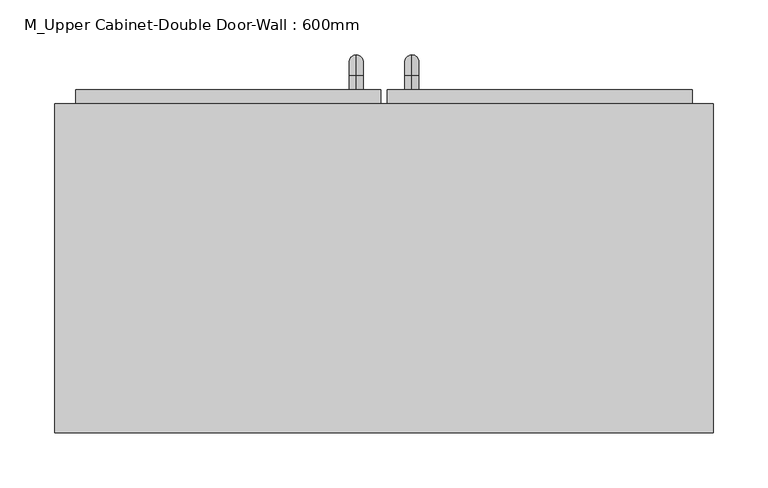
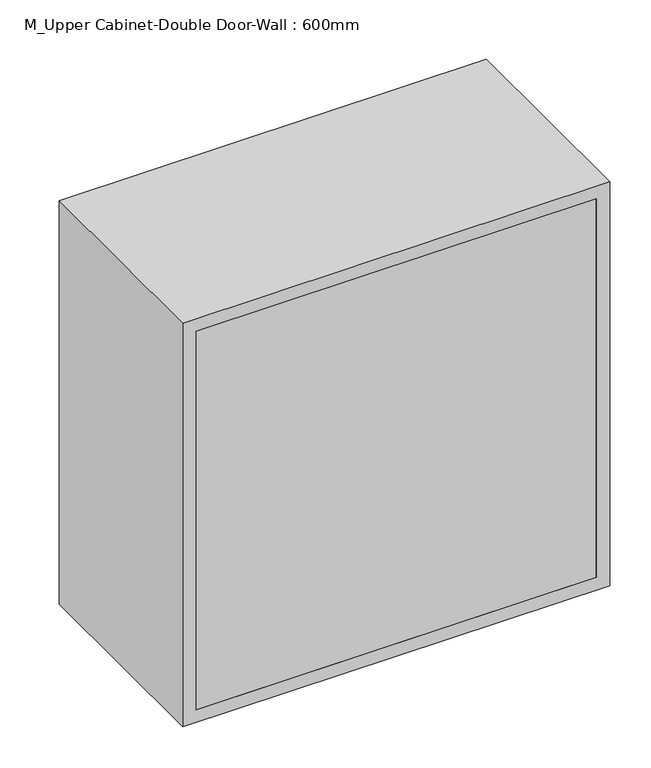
"""IFC4 building model written with IfcOpenShell, lengths in millimetres: furniture geometry, M_Upper Cabinet-Double Door-Wall : 600mm."""

from ifc_helpers import new_model, si_unit, point, frame, origin, place, context, project, spatial, polyline, circle_curve, ellipse_curve, trimmed, outline, extrude, source, transform, mapped, element, save
from ifc_brep_helpers import plane_surface, cylinder_surface, revolved_surface, advanced_brep


def m_upper_cabinet_double_door_wall_600mm_93809998(model_context):
    return source(origin(), model_context, "Body", "SolidModel", [
        advanced_brep(
        [(55.1711628, 412.7, 1546.05), (55.1711628, 412.7, 1558.75), (55.1711628, 425.4, 1546.05), (55.1711628, 425.4, 1558.75), (55.1711628, 444.45, 1539.7), (55.1711628, 431.75, 1539.7), (55.1711628, 431.75, 1463.5), (55.1711628, 444.45, 1463.5), (55.1711628, 425.4, 1444.45), (55.1711628, 425.4, 1457.15), (55.1711628, 412.7, 1457.15), (55.1711628, 412.7, 1444.45)],
        [
            (0, 1, circle_curve(frame((55.1711628, 412.7, 1552.4), z_axis=(0.0, -1.0, 0.0), x_axis=(0.0, 0.0, -1.0)), 6.35)),
            (1, 0, circle_curve(frame((55.1711628, 412.7, 1552.4), z_axis=(0.0, -1.0, 0.0), x_axis=(0.0, 0.0, -1.0)), 6.35)),
            (0, 2),
            (2, 3, circle_curve(frame((55.1711628, 425.4, 1552.4), z_axis=(0.0, -1.0, 0.0), x_axis=(0.0, 0.0, -1.0)), 6.35)),
            (3, 1),
            (3, 2, circle_curve(frame((55.1711628, 425.4, 1552.4), z_axis=(0.0, -1.0, 0.0), x_axis=(0.0, 0.0, -1.0)), 6.35)),
            (4, 3, circle_curve(frame((55.1711628, 425.4, 1539.7), z_axis=(1.0, 0.0, 0.0), x_axis=(0.0, 0.0, 1.0)), 19.05)),
            (2, 5, circle_curve(frame((55.1711628, 425.4, 1539.7), z_axis=(-1.0, 0.0, 0.0), x_axis=(0.0, 0.0, 1.0)), 6.35)),
            (5, 4, circle_curve(frame((55.1711628, 438.1, 1539.7), z_axis=(0.0, 0.0, 1.0), x_axis=(0.0, -1.0, 0.0)), 6.35)),
            (4, 5, circle_curve(frame((55.1711628, 438.1, 1539.7), z_axis=(0.0, 0.0, 1.0), x_axis=(0.0, -1.0, 0.0)), 6.35)),
            (5, 6),
            (6, 7, circle_curve(frame((55.1711628, 438.1, 1463.5), z_axis=(0.0, 0.0, 1.0), x_axis=(0.0, -1.0, 0.0)), 6.35)),
            (7, 4),
            (7, 6, circle_curve(frame((55.1711628, 438.1, 1463.5), z_axis=(0.0, 0.0, 1.0), x_axis=(0.0, -1.0, 0.0)), 6.35)),
            (8, 7, circle_curve(frame((55.1711628, 425.4, 1463.5), z_axis=(1.0, 0.0, 0.0), x_axis=(0.0, 1.0, 0.0)), 19.05)),
            (6, 9, circle_curve(frame((55.1711628, 425.4, 1463.5), z_axis=(-1.0, 0.0, 0.0), x_axis=(0.0, 1.0, 0.0)), 6.35)),
            (9, 8, circle_curve(frame((55.1711628, 425.4, 1450.8), z_axis=(0.0, 1.0, 0.0), x_axis=(0.0, 0.0, 1.0)), 6.35)),
            (8, 9, circle_curve(frame((55.1711628, 425.4, 1450.8), z_axis=(0.0, 1.0, 0.0), x_axis=(0.0, 0.0, 1.0)), 6.35)),
            (10, 11, circle_curve(frame((55.1711628, 412.7, 1450.8), z_axis=(0.0, -1.0, 0.0), x_axis=(0.0, 0.0, 1.0)), 6.35)),
            (11, 10, circle_curve(frame((55.1711628, 412.7, 1450.8), z_axis=(0.0, -1.0, 0.0), x_axis=(0.0, 0.0, 1.0)), 6.35)),
            (9, 10),
            (11, 8),
        ],
        [
            plane_surface(frame((48.8211628, 412.7, 1552.4), z_axis=(0.0, -1.0, 0.0), x_axis=(0.0, 0.0, 1.0))),
            cylinder_surface(frame((55.1711628, 412.7, 1552.4), z_axis=(0.0, -1.0, 0.0), x_axis=(0.0, 0.0, -1.0)), 6.35),
            revolved_surface(trimmed(ellipse_curve(frame((55.1711628, 425.4, 1552.4), z_axis=(0.0, -1.0, 0.0), x_axis=(0.0, 0.0, -1.0)), 6.35, 6.35), [point((55.1711628, 425.4, 1546.05))], [point((55.1711628, 425.4, 1558.75))], True, "CARTESIAN"), (55.1711628, 425.4, 1539.7), (-1.0, 0.0, 0.0)),
            revolved_surface(trimmed(ellipse_curve(frame((55.1711628, 425.4, 1552.4), z_axis=(0.0, -1.0, 0.0), x_axis=(0.0, 0.0, -1.0)), 6.35, 6.35), [point((55.1711628, 425.4, 1558.75))], [point((55.1711628, 425.4, 1546.05))], True, "CARTESIAN"), (55.1711628, 425.4, 1539.7), (-1.0, 0.0, 0.0)),
            cylinder_surface(frame((55.1711628, 438.1, 1539.7), z_axis=(0.0, 0.0, 1.0), x_axis=(0.0, -1.0, 0.0)), 6.35),
            revolved_surface(trimmed(ellipse_curve(frame((55.1711628, 438.1, 1463.5), z_axis=(0.0, 0.0, 1.0), x_axis=(0.0, -1.0, 0.0)), 6.35, 6.35), [point((55.1711628, 431.75, 1463.5))], [point((55.1711628, 444.45, 1463.5))], True, "CARTESIAN"), (55.1711628, 425.4, 1463.5), (-1.0, 0.0, 0.0)),
            revolved_surface(trimmed(ellipse_curve(frame((55.1711628, 438.1, 1463.5), z_axis=(0.0, 0.0, 1.0), x_axis=(0.0, -1.0, 0.0)), 6.35, 6.35), [point((55.1711628, 444.45, 1463.5))], [point((55.1711628, 431.75, 1463.5))], True, "CARTESIAN"), (55.1711628, 425.4, 1463.5), (-1.0, 0.0, 0.0)),
            plane_surface(frame((48.8211628, 412.7, 1450.8), z_axis=(0.0, -1.0, 0.0), x_axis=(0.0, 0.0, -1.0))),
            cylinder_surface(frame((55.1711628, 425.4, 1450.8), z_axis=(0.0, 1.0, 0.0), x_axis=(0.0, 0.0, 1.0)), 6.35),
        ],
        [
            (0, [[1, 2]]),
            (1, [[-1, 3, 4, 5]]),
            (1, [[-2, -5, 6, -3]]),
            (2, [[7, -4, 8, 9]]),
            (3, [[-8, -6, -7, 10]]),
            (4, [[-9, 11, 12, 13]]),
            (4, [[-10, -13, 14, -11]]),
            (5, [[15, -12, 16, 17]]),
            (6, [[-16, -14, -15, 18]]),
            (7, [[19, 20]]),
            (8, [[-17, 21, -20, 22]]),
            (8, [[-18, -22, -19, -21]]),
        ],
    ),
        advanced_brep(
        [(4.3711628, 412.7, 1546.05), (4.3711628, 412.7, 1558.75), (4.3711628, 425.4, 1546.05), (4.3711628, 425.4, 1558.75), (4.3711628, 444.45, 1539.7), (4.3711628, 431.75, 1539.7), (4.3711628, 431.75, 1463.5), (4.3711628, 444.45, 1463.5), (4.3711628, 425.4, 1444.45), (4.3711628, 425.4, 1457.15), (4.3711628, 412.7, 1457.15), (4.3711628, 412.7, 1444.45)],
        [
            (0, 1, circle_curve(frame((4.3711628, 412.7, 1552.4), z_axis=(0.0, -1.0, 0.0), x_axis=(0.0, 0.0, 1.0)), 6.35)),
            (1, 0, circle_curve(frame((4.3711628, 412.7, 1552.4), z_axis=(0.0, -1.0, 0.0), x_axis=(0.0, 0.0, 1.0)), 6.35)),
            (0, 2),
            (2, 3, circle_curve(frame((4.3711628, 425.4, 1552.4), z_axis=(0.0, -1.0, 0.0), x_axis=(0.0, 0.0, 1.0)), 6.35)),
            (3, 1),
            (3, 2, circle_curve(frame((4.3711628, 425.4, 1552.4), z_axis=(0.0, -1.0, 0.0), x_axis=(0.0, 0.0, 1.0)), 6.35)),
            (4, 3, circle_curve(frame((4.3711628, 425.4, 1539.7), z_axis=(1.0, 0.0, 0.0), x_axis=(0.0, 0.0, 1.0)), 19.05)),
            (2, 5, circle_curve(frame((4.3711628, 425.4, 1539.7), z_axis=(-1.0, 0.0, 0.0), x_axis=(0.0, 0.0, 1.0)), 6.35)),
            (5, 4, circle_curve(frame((4.3711628, 438.1, 1539.7), z_axis=(0.0, 0.0, 1.0), x_axis=(0.0, 1.0, 0.0)), 6.35)),
            (4, 5, circle_curve(frame((4.3711628, 438.1, 1539.7), z_axis=(0.0, 0.0, 1.0), x_axis=(0.0, 1.0, 0.0)), 6.35)),
            (5, 6),
            (6, 7, circle_curve(frame((4.3711628, 438.1, 1463.5), z_axis=(0.0, 0.0, 1.0), x_axis=(0.0, 1.0, 0.0)), 6.35)),
            (7, 4),
            (7, 6, circle_curve(frame((4.3711628, 438.1, 1463.5), z_axis=(0.0, 0.0, 1.0), x_axis=(0.0, 1.0, 0.0)), 6.35)),
            (8, 7, circle_curve(frame((4.3711628, 425.4, 1463.5), z_axis=(1.0, 0.0, 0.0), x_axis=(0.0, 1.0, 0.0)), 19.05)),
            (6, 9, circle_curve(frame((4.3711628, 425.4, 1463.5), z_axis=(-1.0, 0.0, 0.0), x_axis=(0.0, 1.0, 0.0)), 6.35)),
            (9, 8, circle_curve(frame((4.3711628, 425.4, 1450.8), z_axis=(0.0, 1.0, 0.0), x_axis=(0.0, 0.0, -1.0)), 6.35)),
            (8, 9, circle_curve(frame((4.3711628, 425.4, 1450.8), z_axis=(0.0, 1.0, 0.0), x_axis=(0.0, 0.0, -1.0)), 6.35)),
            (10, 11, circle_curve(frame((4.3711628, 412.7, 1450.8), z_axis=(0.0, -1.0, 0.0), x_axis=(0.0, 0.0, -1.0)), 6.35)),
            (11, 10, circle_curve(frame((4.3711628, 412.7, 1450.8), z_axis=(0.0, -1.0, 0.0), x_axis=(0.0, 0.0, -1.0)), 6.35)),
            (9, 10),
            (11, 8),
        ],
        [
            plane_surface(frame((-1.9788372, 412.7, 1552.4), z_axis=(0.0, -1.0, 0.0), x_axis=(0.0, 0.0, 1.0))),
            cylinder_surface(frame((4.3711628, 412.7, 1552.4), z_axis=(0.0, -1.0, 0.0), x_axis=(0.0, 0.0, 1.0)), 6.35),
            revolved_surface(trimmed(ellipse_curve(frame((4.3711628, 425.4, 1552.4), z_axis=(0.0, -1.0, 0.0), x_axis=(0.0, 0.0, 1.0)), 6.35, 6.35), [point((4.3711628, 425.4, 1546.05))], [point((4.3711628, 425.4, 1558.75))], True, "CARTESIAN"), (4.3711628, 425.4, 1539.7), (-1.0, 0.0, 0.0)),
            revolved_surface(trimmed(ellipse_curve(frame((4.3711628, 425.4, 1552.4), z_axis=(0.0, -1.0, 0.0), x_axis=(0.0, 0.0, 1.0)), 6.35, 6.35), [point((4.3711628, 425.4, 1558.75))], [point((4.3711628, 425.4, 1546.05))], True, "CARTESIAN"), (4.3711628, 425.4, 1539.7), (-1.0, 0.0, 0.0)),
            cylinder_surface(frame((4.3711628, 438.1, 1539.7), z_axis=(0.0, 0.0, 1.0), x_axis=(0.0, 1.0, 0.0)), 6.35),
            revolved_surface(trimmed(ellipse_curve(frame((4.3711628, 438.1, 1463.5), z_axis=(0.0, 0.0, 1.0), x_axis=(0.0, 1.0, 0.0)), 6.35, 6.35), [point((4.3711628, 431.75, 1463.5))], [point((4.3711628, 444.45, 1463.5))], True, "CARTESIAN"), (4.3711628, 425.4, 1463.5), (-1.0, 0.0, 0.0)),
            revolved_surface(trimmed(ellipse_curve(frame((4.3711628, 438.1, 1463.5), z_axis=(0.0, 0.0, 1.0), x_axis=(0.0, 1.0, 0.0)), 6.35, 6.35), [point((4.3711628, 444.45, 1463.5))], [point((4.3711628, 431.75, 1463.5))], True, "CARTESIAN"), (4.3711628, 425.4, 1463.5), (-1.0, 0.0, 0.0)),
            plane_surface(frame((-1.9788372, 412.7, 1450.8), z_axis=(0.0, -1.0, 0.0), x_axis=(0.0, 0.0, -1.0))),
            cylinder_surface(frame((4.3711628, 425.4, 1450.8), z_axis=(0.0, 1.0, 0.0), x_axis=(0.0, 0.0, -1.0)), 6.35),
        ],
        [
            (0, [[1, 2]]),
            (1, [[-1, 3, 4, 5]]),
            (1, [[-2, -5, 6, -3]]),
            (2, [[7, -4, 8, 9]]),
            (3, [[-8, -6, -7, 10]]),
            (4, [[-9, 11, 12, 13]]),
            (4, [[-10, -13, 14, -11]]),
            (5, [[15, -12, 16, 17]]),
            (6, [[-16, -14, -15, 18]]),
            (7, [[19, 20]]),
            (8, [[-17, 21, -20, 22]]),
            (8, [[-18, -22, -19, -21]]),
        ],
    ),
        extrude(outline(polyline([(32.9461628, 412.7), (310.7211628, 412.7), (310.7211628, 380.95), (32.9461628, 380.95), (32.9461628, 412.7)])), frame((0.0, 0.0, 1419.05), z_axis=(0.0, 0.0, 1.0), x_axis=(1.0, 0.0, 0.0)), (0.0, 0.0, 1.0), 561.9),
        extrude(outline(polyline([(-251.1788372, 412.7), (26.5961628, 412.7), (26.5961628, 380.95), (-251.1788372, 380.95), (-251.1788372, 412.7)])), frame((0.0, 0.0, 1419.05), z_axis=(0.0, 0.0, 1.0), x_axis=(1.0, 0.0, 0.0)), (0.0, 0.0, 1.0), 561.9),
        extrude(outline(polyline([(310.7211628, 100.0), (-251.1788372, 100.0), (-251.1788372, 119.05), (310.7211628, 119.05), (310.7211628, 100.0)])), frame((0.0, 0.0, 1419.05), z_axis=(0.0, 0.0, 1.0), x_axis=(1.0, 0.0, 0.0)), (0.0, 0.0, 1.0), 561.9),
        extrude(outline(polyline([(2000.0, -270.2288372), (1400.0, -270.2288372), (1400.0, 329.7711628), (2000.0, 329.7711628), (2000.0, -270.2288372)]), holes=[polyline([(1980.95, -251.1788372), (1980.95, 310.7211628), (1419.05, 310.7211628), (1419.05, -251.1788372), (1980.95, -251.1788372)])]), frame((0.0, 100.0, 0.0), z_axis=(0.0, 1.0, 0.0), x_axis=(0.0, 0.0, 1.0)), (0.0, 0.0, 1.0), 300.0),
    ])


if __name__ == "__main__":
    model = new_model("IFC4")
    model_context = context("Model", 3, world=origin())
    ifc_project = project(units=[si_unit("LENGTHUNIT", "METRE", prefix="MILLI")], contexts=[model_context])
    site = spatial("IfcSite", under=ifc_project)
    building = spatial("IfcBuilding", under=site)
    placement = place(None, origin())
    m_upper_cabinet_double_door_wall_600mm_shape = m_upper_cabinet_double_door_wall_600mm_93809998(model_context)
    element("IfcFurniture", 1, ObjectType="M_Upper Cabinet-Double Door-Wall : 600mm", at=placement, inside=building, context=model_context, shape_type="MappedRepresentation", body=[
        mapped(m_upper_cabinet_double_door_wall_600mm_shape, transform((0.0, 0.0, 0.0), x_axis=(1.0, 0.0, 0.0), y_axis=(0.0, 1.0, 0.0), z_axis=(0.0, 0.0, 1.0))),
    ])
    save(model, "model.ifc")
